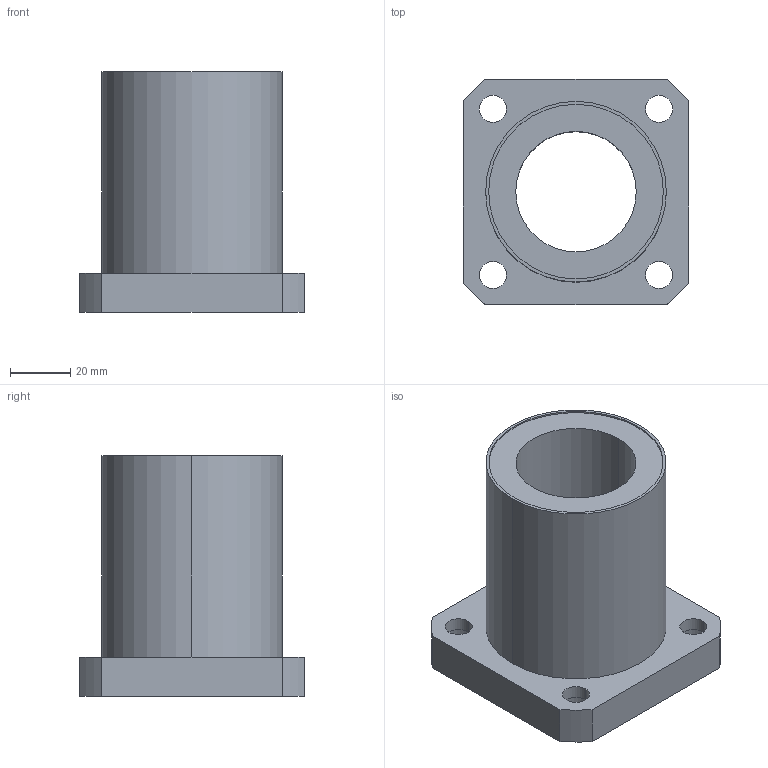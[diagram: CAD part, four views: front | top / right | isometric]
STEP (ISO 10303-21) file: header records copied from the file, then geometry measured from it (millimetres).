
FILE_DESCRIPTION((''),'2;1');
FILE_NAME('C:\Documents and Settings\ｿﾀﾀ蠑ｷ1\ｹﾙﾅﾁ ﾈｭｸ饅\ｺﾎﾇｰﾆﾄﾀﾏ\ﾁｦﾇｰ\LMK__UU\LMK40UU.stp','2005-06-15T09:49:44',('ｿﾀﾀ蠑ｷ1'),(''),'Autodesk Inventor 9','Autodesk Inventor 9','');
FILE_SCHEMA(('AUTOMOTIVE_DESIGN { 1 0 10303 214 1 1 1 1 }'));
Length unit declared in the file: millimetre
Products named in the file (1): LMK__
Bounding box: 75 x 75 x 80 mm (x, y, z)
Volume: 152078.7 mm3; surface area: 36469.8 mm2
Topology: 1 solids, 1 shells, 44 faces, 102 edges, 68 vertices
Faces by surface type: cylinder 30, plane 14
Entity records: 1329 total; most frequent: DIRECTION 252, CARTESIAN_POINT 215, ORIENTED_EDGE 204, AXIS2_PLACEMENT_3D 105, EDGE_CURVE 102, VERTEX_POINT 68, EDGE_LOOP 62, CIRCLE 60
